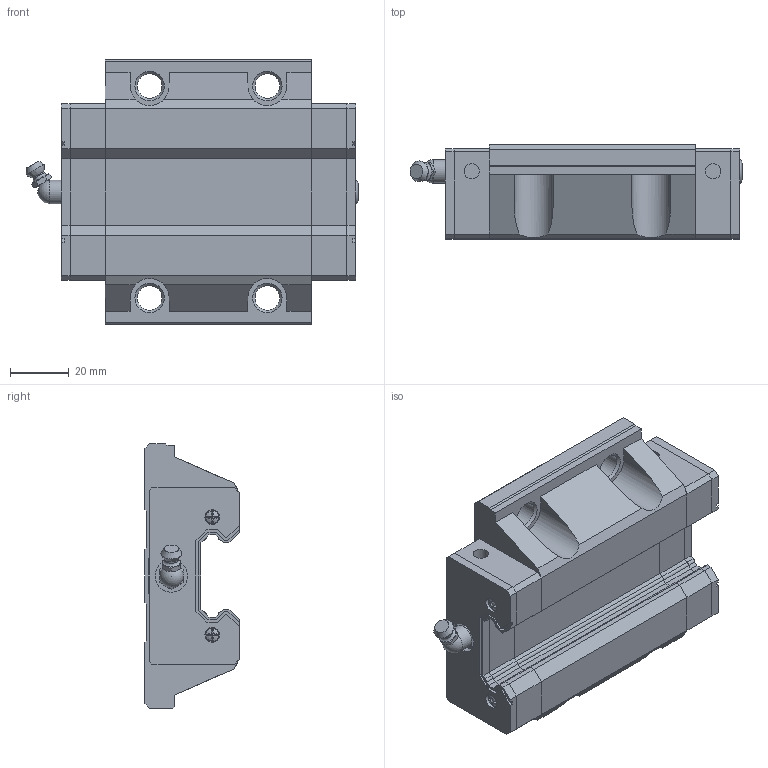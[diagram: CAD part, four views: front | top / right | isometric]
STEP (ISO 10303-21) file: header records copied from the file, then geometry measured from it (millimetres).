
FILE_DESCRIPTION(('FreeCAD Model'),'2;1');
FILE_NAME('Open CASCADE Shape Model','2024-12-05T16:37:27',('Author'),( ''),'Open CASCADE STEP processor 7.6','FreeCAD','Unknown');
FILE_SCHEMA(('AUTOMOTIVE_DESIGN { 1 0 10303 214 1 1 1 1 }'));
Length unit declared in the file: millimetre
Products named in the file (7): EW30CC; _GEW30CC_slider; _GEC30_C002; _GEC30_P002; _GH30_SCREW004; _GH30_BOLT001; _GH30-_G001
Assembly tree (11 placements, depth 2):
  EW30CC
    _GEW30CC_slider
    _GEC30_C002  x2
    _GEC30_P002  x2
    _GH30_SCREW004  x4
    _GH30_BOLT001
    _GH30-_G001
Bounding box: 112.8 x 32 x 90 mm (x, y, z)
Volume: 184598.4 mm3; surface area: 43955.5 mm2
Topology: 11 solids, 11 shells, 398 faces, 1047 edges, 687 vertices
Faces by surface type: plane 307, cylinder 55, cone 24, torus 6, sphere 5, bspline 1
Full cylindrical faces by diameter (mm): 2.2 x4, 4.5 x1, 4.65 x4, 5 x4, 5.2 x4, 6 x2, 6.5 x2, 7.1 x2, 8 x1, 8.2 x1, 8.376 x4, 11 x2
Entity records: 7785 total; most frequent: CARTESIAN_POINT 1519, ORIENTED_EDGE 1276, DIRECTION 1203, EDGE_CURVE 638, LINE 449, VECTOR 449, VERTEX_POINT 417, AXIS2_PLACEMENT_3D 377
